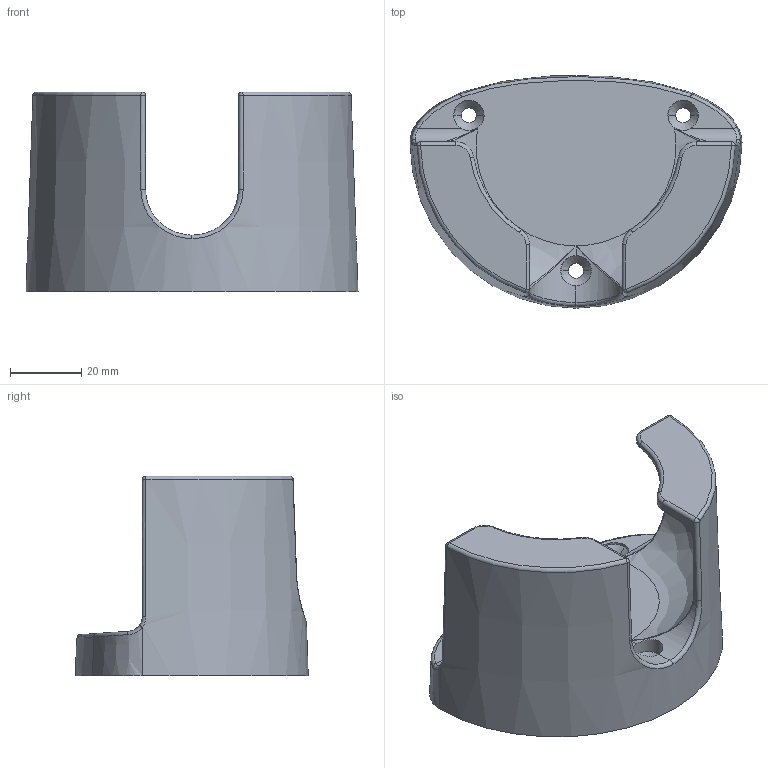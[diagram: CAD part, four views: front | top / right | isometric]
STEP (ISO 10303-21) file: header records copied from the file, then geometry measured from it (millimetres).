
FILE_DESCRIPTION(('STEP AP214'),'1');
FILE_NAME('C:/TPO v2/SharedFS/Outgoing/euchner_072828.stp','2016-06-24T08:24:00',('TraceParts'),('TraceParts S.A.'),'Spatial InterOp 3D',' ',' ');
FILE_SCHEMA(('automotive_design'));
Length unit declared in the file: millimetre
Products named in the file (1): 1
Bounding box: 93 x 65.12 x 56 mm (x, y, z)
Volume: 54898.2 mm3; surface area: 37781.2 mm2
Topology: 1 solids, 1 shells, 315 faces, 783 edges, 491 vertices
Faces by surface type: plane 128, cone 73, bspline 60, cylinder 40, torus 8, sphere 6
Entity records: 34413 total; most frequent: CARTESIAN_POINT 25194, ORIENTED_EDGE 1546, DIRECTION 1128, EDGE_CURVE 773, VERTEX_POINT 491, AXIS2_PLACEMENT_3D 434, EDGE_LOOP 352, STYLED_ITEM 315
